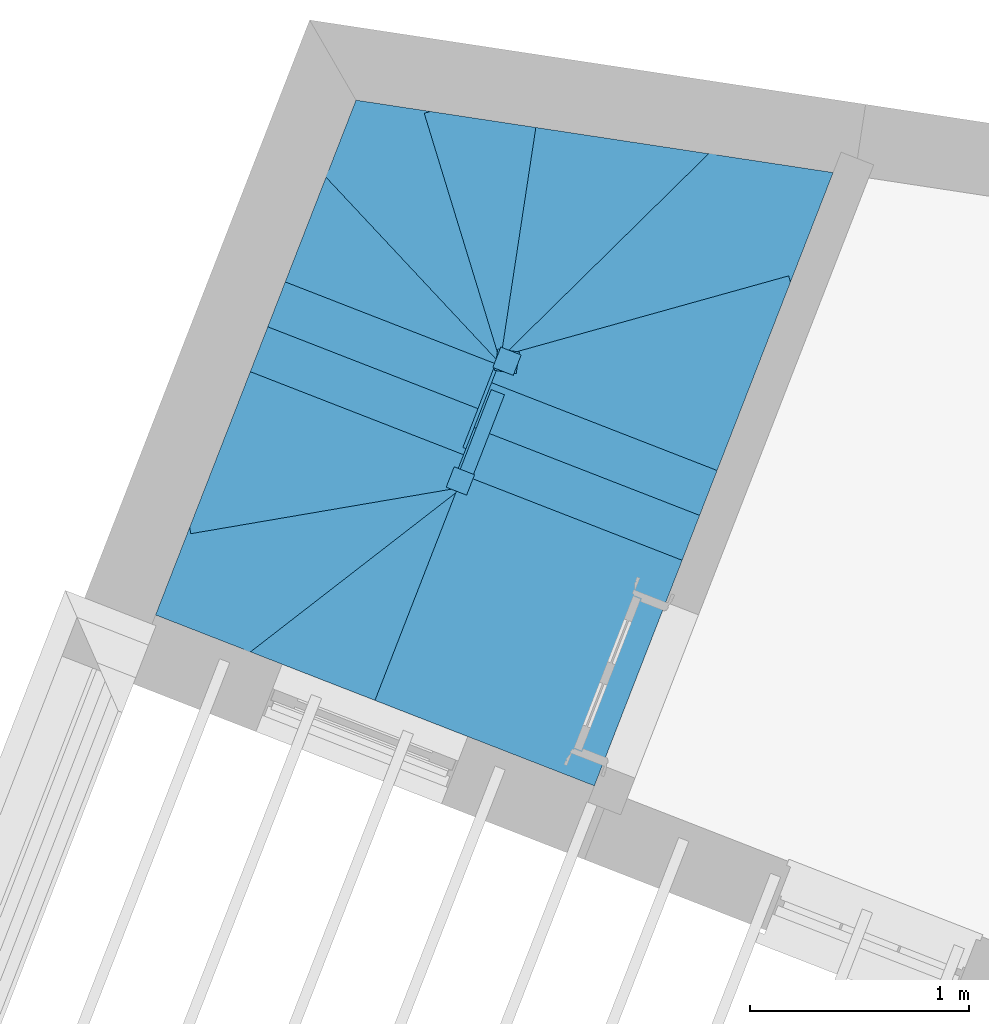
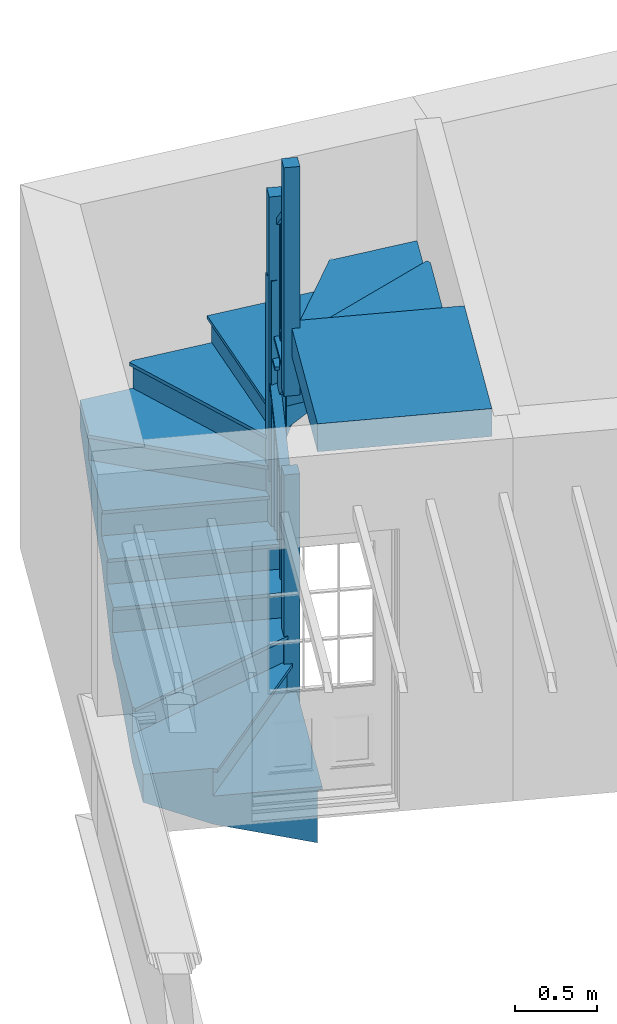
# One storey, part 5 of 5: 1 stair.
"""IFC4 building model written with IfcOpenShell, lengths in metres."""

from ifc_helpers import new_model, si_unit, frame, origin, origin_with_axes, place, context, subcontext, project, spatial, faceted_brep, element, save


model = new_model("IFC4")

# Units and contexts
model_context = context("Model", 3, world=origin_with_axes())
body_context = subcontext(model_context, "Body", "Model", "MODEL_VIEW")
ifc_project = project(units=[si_unit("PLANEANGLEUNIT", "RADIAN"), si_unit("MASSUNIT", "GRAM", prefix="KILO"), si_unit("FORCEUNIT", "NEWTON", prefix="KILO"), si_unit("LENGTHUNIT", "METRE"), si_unit("AREAUNIT", "SQUARE_METRE"), si_unit("VOLUMEUNIT", "CUBIC_METRE")], contexts=[model_context, model_context])

# Sites, building, storey
site_1_placement = place(None, origin_with_axes())
site_1 = spatial("IfcSite", under=ifc_project, at=site_1_placement, Name="Tamar")
site_2_placement = place(site_1_placement, origin_with_axes())
site_2 = spatial("IfcSite", under=site_1, at=site_2_placement, Name="Site plot-10", CompositionType="ELEMENT")
building_placement = place(None, origin_with_axes())
building = spatial("IfcBuilding", under=site_2, at=building_placement, Name="Building plot-10", CompositionType="ELEMENT")
storey_placement = place(None, frame((0.0, 0.0, 30.1), z_axis=(0.0, 0.0, 1.0), x_axis=(1.0, 0.0, 0.0)))
storey = spatial("IfcBuildingStorey", under=building, at=storey_placement, Name="plot-10 1", CompositionType="ELEMENT", Elevation=30.1)

# Stair
stair_placement = place(None, origin())
element("IfcStair", 1, at=stair_placement, inside=storey, Name="Stair", PredefinedType="NOTDEFINED", context=body_context, shape_type="Brep", body=[
    faceted_brep([(232.962063, 320.817461, 32.592308), (233.964143, 320.427315, 32.592308), (234.043961, 320.632325, 32.592308), (233.041881, 321.022471, 32.592308), (233.041881, 321.022471, 32.176923), (234.043961, 320.632325, 32.176923), (233.964143, 320.427315, 32.384615), (232.962063, 320.817461, 32.384615)], [[[0, 1, 2, 3]], [[4, 5, 6, 7]], [[7, 6, 1, 0]], [[1, 6, 5, 2]], [[5, 4, 3, 2]], [[3, 4, 7, 0]]]),
    faceted_brep([(234.054845, 320.660281, 32.567308), (234.054845, 320.660281, 32.592308), (234.043961, 320.632325, 32.567308), (233.953259, 320.399359, 32.592308), (233.953259, 320.399359, 32.567308), (233.964143, 320.427315, 32.567308), (234.043961, 320.632325, 32.592308), (233.964143, 320.427315, 32.592308), (233.024809, 321.061311, 32.592308), (233.041881, 321.022471, 32.592308), (233.041881, 321.022471, 32.567308), (233.024809, 321.061311, 32.567308), (232.923223, 320.800389, 32.592308), (232.962063, 320.817461, 32.592308), (232.962063, 320.817461, 32.567308), (232.923223, 320.800389, 32.567308)], [[[0, 1, 2]], [[3, 4, 5]], [[2, 1, 6]], [[3, 5, 7]], [[6, 1, 8, 9]], [[2, 6, 9, 10]], [[0, 2, 10, 11]], [[1, 0, 11, 8]], [[9, 8, 12, 13]], [[10, 9, 13, 14]], [[11, 10, 14, 15]], [[8, 11, 15, 12]], [[13, 12, 3, 7]], [[14, 13, 7, 5]], [[15, 14, 5, 4]], [[12, 15, 4, 3]]]),
    faceted_brep([(233.041881, 321.022471, 33.492308), (233.032811, 320.999174, 33.492308), (233.056107, 320.990104, 33.492308), (233.065177, 321.013401, 33.492308), (233.065177, 321.013401, 32.592308), (233.056107, 320.990104, 32.592308), (233.032811, 320.999174, 32.592308), (233.041881, 321.022471, 32.592308)], [[[0, 1, 2, 3]], [[4, 5, 6, 7]], [[7, 6, 1, 0]], [[6, 5, 2, 1]], [[5, 4, 3, 2]], [[4, 7, 0, 3]]]),
    faceted_brep([(233.001972, 320.919966, 33.596154), (232.992902, 320.896669, 33.596154), (233.016198, 320.887599, 33.596154), (233.025269, 320.910896, 33.596154), (233.025269, 320.910896, 32.592308), (233.016198, 320.887599, 32.592308), (232.992902, 320.896669, 32.592308), (233.001972, 320.919966, 32.592308)], [[[0, 1, 2, 3]], [[4, 5, 6, 7]], [[7, 6, 1, 0]], [[6, 5, 2, 1]], [[5, 4, 3, 2]], [[4, 7, 0, 3]]]),
    faceted_brep([(233.083815, 321.006145, 33.442308), (233.023244, 321.029727, 33.442308), (233.023244, 321.029727, 33.492308), (233.083815, 321.006145, 33.492308), (232.943426, 320.824717, 33.65), (233.003997, 320.801135, 33.65), (233.003997, 320.801135, 33.7), (232.943426, 320.824717, 33.7)], [[[0, 1, 2, 3]], [[4, 5, 6, 7]], [[0, 5, 4, 1]], [[3, 2, 7, 6]], [[0, 3, 6, 5]], [[2, 1, 4, 7]]]),
    faceted_brep([(233.041881, 321.022471, 32.384615), (234.043961, 320.632325, 32.384615), (234.123779, 320.837335, 32.384615), (233.121699, 321.227481, 32.384615), (233.121699, 321.227481, 31.969231), (234.123779, 320.837335, 31.969231), (234.043961, 320.632325, 32.176923), (233.041881, 321.022471, 32.176923)], [[[0, 1, 2, 3]], [[4, 5, 6, 7]], [[7, 6, 1, 0]], [[1, 6, 5, 2]], [[5, 4, 3, 2]], [[3, 4, 7, 0]]]),
    faceted_brep([(234.123779, 320.837335, 32.359615), (234.134663, 320.865291, 32.359615), (234.123779, 320.837335, 32.384615), (234.033077, 320.604369, 32.359615), (234.043961, 320.632325, 32.359615), (234.043961, 320.632325, 32.384615), (234.134663, 320.865291, 32.384615), (234.033077, 320.604369, 32.384615), (233.104627, 321.266321, 32.384615), (233.121699, 321.227481, 32.384615), (233.121699, 321.227481, 32.359615), (233.104627, 321.266321, 32.359615), (233.003041, 321.005399, 32.384615), (233.041881, 321.022471, 32.384615), (233.041881, 321.022471, 32.359615), (233.003041, 321.005399, 32.359615)], [[[0, 1, 2]], [[3, 4, 5]], [[1, 6, 2]], [[7, 3, 5]], [[2, 6, 8, 9]], [[0, 2, 9, 10]], [[1, 0, 10, 11]], [[6, 1, 11, 8]], [[9, 8, 12, 13]], [[10, 9, 13, 14]], [[11, 10, 14, 15]], [[8, 11, 15, 12]], [[13, 12, 7, 5]], [[14, 13, 5, 4]], [[15, 14, 4, 3]], [[12, 15, 3, 7]]]),
    faceted_brep([(233.121699, 321.227481, 33.284615), (233.112628, 321.204184, 33.284615), (233.135925, 321.195114, 33.284615), (233.144995, 321.218411, 33.284615), (233.144995, 321.218411, 32.384615), (233.135925, 321.195114, 32.384615), (233.112628, 321.204184, 32.384615), (233.121699, 321.227481, 32.384615)], [[[0, 1, 2, 3]], [[4, 5, 6, 7]], [[7, 6, 1, 0]], [[6, 5, 2, 1]], [[5, 4, 3, 2]], [[4, 7, 0, 3]]]),
    faceted_brep([(233.08179, 321.124976, 33.388462), (233.07272, 321.101679, 33.388462), (233.096016, 321.092609, 33.388462), (233.105086, 321.115906, 33.388462), (233.105086, 321.115906, 32.384615), (233.096016, 321.092609, 32.384615), (233.07272, 321.101679, 32.384615), (233.08179, 321.124976, 32.384615)], [[[0, 1, 2, 3]], [[4, 5, 6, 7]], [[7, 6, 1, 0]], [[6, 5, 2, 1]], [[5, 4, 3, 2]], [[4, 7, 0, 3]]]),
    faceted_brep([(233.163632, 321.211155, 33.234615), (233.103061, 321.234737, 33.234615), (233.103061, 321.234737, 33.284615), (233.163632, 321.211155, 33.284615), (233.023244, 321.029727, 33.442308), (233.083815, 321.006145, 33.442308), (233.083815, 321.006145, 33.492308), (233.023244, 321.029727, 33.492308)], [[[0, 1, 2, 3]], [[4, 5, 6, 7]], [[0, 5, 4, 1]], [[3, 2, 7, 6]], [[0, 3, 6, 5]], [[2, 1, 4, 7]]]),
    faceted_brep([(233.121699, 321.227481, 32.176923), (234.123779, 320.837335, 32.176923), (234.177096, 320.97428, 32.176923), (233.175016, 321.364426, 32.176923), (233.175016, 321.364426, 31.969231), (234.177096, 320.97428, 31.969231), (234.123779, 320.837335, 31.969231), (233.121699, 321.227481, 31.969231)], [[[0, 1, 2, 3]], [[4, 5, 6, 7]], [[7, 6, 1, 0]], [[6, 5, 2, 1]], [[5, 4, 3, 2]], [[4, 7, 0, 3]]]),
    faceted_brep([(233.14706, 321.37531, 32.151923), (233.14706, 321.37531, 32.176923), (233.175016, 321.364426, 32.151923), (233.093743, 321.238365, 32.176923), (233.093743, 321.238365, 32.151923), (233.121699, 321.227481, 32.151923), (233.175016, 321.364426, 32.176923), (233.121699, 321.227481, 32.176923)], [[[0, 1, 2]], [[3, 4, 5]], [[2, 1, 6]], [[3, 5, 7]], [[6, 1, 3, 7]], [[2, 6, 7, 5]], [[0, 2, 5, 4]], [[1, 0, 4, 3]]]),
    faceted_brep([(233.146563, 321.42916, 33.376923), (233.110283, 321.335973, 33.376923), (233.203469, 321.299692, 33.376923), (233.23975, 321.392879, 33.376923), (233.23975, 321.392879, 32.176923), (233.203469, 321.299692, 32.176923), (233.110283, 321.335973, 32.176923), (233.146563, 321.42916, 32.176923)], [[[0, 1, 2, 3]], [[4, 5, 6, 7]], [[7, 6, 1, 0]], [[6, 5, 2, 1]], [[5, 4, 3, 2]], [[4, 7, 0, 3]]]),
    faceted_brep([(234.177096, 320.97428, 32.176923), (234.469505, 321.725324, 32.176923), (233.175016, 321.364426, 32.176923), (233.175016, 321.364426, 31.761538), (234.469505, 321.725324, 31.761538), (234.177096, 320.97428, 31.969231)], [[[0, 1, 2]], [[3, 4, 5]], [[0, 5, 4, 1]], [[4, 3, 2, 1]], [[2, 3, 5, 0]]]),
    faceted_brep([(234.469505, 321.725324, 32.151923), (234.461448, 321.754222, 32.151923), (234.469505, 321.725324, 32.176923), (233.16696, 321.393324, 32.151923), (233.175016, 321.364426, 32.151923), (233.175016, 321.364426, 32.176923), (234.461448, 321.754222, 32.176923), (233.16696, 321.393324, 32.176923)], [[[0, 1, 2]], [[3, 4, 5]], [[1, 6, 2]], [[7, 3, 5]], [[2, 6, 7, 5]], [[0, 2, 5, 4]], [[1, 0, 4, 3]], [[6, 1, 3, 7]]]),
    faceted_brep([(234.469505, 321.725324, 31.969231), (234.664444, 322.226019, 31.969231), (234.133223, 322.306651, 31.969231), (233.175016, 321.364426, 31.969231), (233.175016, 321.364426, 31.553846), (234.133223, 322.306651, 31.553846), (234.664444, 322.226019, 31.761538), (234.469505, 321.725324, 31.761538)], [[[0, 1, 2, 3]], [[4, 5, 6, 7]], [[7, 6, 1, 0]], [[1, 6, 5, 2]], [[5, 4, 3, 2]], [[3, 4, 7, 0]]]),
    faceted_brep([(234.112188, 322.328042, 31.944231), (234.112188, 322.328042, 31.969231), (234.133223, 322.306651, 31.944231), (233.153982, 321.385817, 31.969231), (233.153982, 321.385817, 31.944231), (233.175016, 321.364426, 31.944231), (234.133223, 322.306651, 31.969231), (233.175016, 321.364426, 31.969231)], [[[0, 1, 2]], [[3, 4, 5]], [[2, 1, 6]], [[3, 5, 7]], [[6, 1, 3, 7]], [[2, 6, 7, 5]], [[0, 2, 5, 4]], [[1, 0, 4, 3]]]),
    faceted_brep([(234.133223, 322.306651, 31.761538), (233.336391, 322.427599, 31.761538), (233.175016, 321.364426, 31.761538), (233.175016, 321.364426, 31.346154), (233.336391, 322.427599, 31.346154), (234.133223, 322.306651, 31.553846)], [[[0, 1, 2]], [[3, 4, 5]], [[0, 5, 4, 1]], [[4, 3, 2, 1]], [[2, 3, 5, 0]]]),
    faceted_brep([(233.336391, 322.427599, 31.736538), (233.306731, 322.432101, 31.736538), (233.336391, 322.427599, 31.761538), (233.145356, 321.368928, 31.736538), (233.175016, 321.364426, 31.736538), (233.175016, 321.364426, 31.761538), (233.306731, 322.432101, 31.761538), (233.145356, 321.368928, 31.761538)], [[[0, 1, 2]], [[3, 4, 5]], [[1, 6, 2]], [[7, 3, 5]], [[2, 6, 7, 5]], [[0, 2, 5, 4]], [[1, 0, 4, 3]], [[6, 1, 3, 7]]]),
    faceted_brep([(233.146563, 321.42916, 32.176923), (233.110283, 321.335973, 32.176923), (233.203469, 321.299692, 32.176923), (233.23975, 321.392879, 32.176923), (233.23975, 321.392879, 31.261538), (233.203469, 321.299692, 31.261538), (233.110283, 321.335973, 31.261538), (233.146563, 321.42916, 31.261538)], [[[0, 1, 2, 3]], [[4, 5, 6, 7]], [[7, 6, 1, 0]], [[6, 5, 2, 1]], [[5, 4, 3, 2]], [[4, 7, 0, 3]]]),
    faceted_brep([(233.175016, 321.364426, 31.346154), (233.336391, 322.427599, 31.346154), (233.336391, 322.427599, 31.553846), (233.175016, 321.364426, 31.553846)], [[[0, 1, 2, 3]], [[1, 0, 3, 2]]]),
    faceted_brep([(233.175016, 321.364426, 31.528846), (233.162832, 321.39184, 31.528846), (233.175016, 321.364426, 31.553846), (233.162832, 321.39184, 31.553846)], [[[0, 1, 2]], [[1, 0, 2]], [[1, 3, 2]], [[3, 1, 2]]]),
    faceted_brep([(233.118079, 321.322496, 32.753846), (233.216947, 321.307489, 32.753846), (233.231953, 321.406356, 32.753846), (233.133086, 321.421363, 32.753846), (233.133086, 321.421363, 31.553846), (233.231953, 321.406356, 31.553846), (233.216947, 321.307489, 31.553846), (233.118079, 321.322496, 31.553846)], [[[0, 1, 2, 3]], [[4, 5, 6, 7]], [[7, 6, 1, 0]], [[6, 5, 2, 1]], [[5, 4, 3, 2]], [[4, 7, 0, 3]]]),
    faceted_brep([(233.336391, 322.427599, 31.553846), (232.825717, 322.505112, 31.553846), (233.175016, 321.364426, 31.553846), (233.175016, 321.364426, 31.138462), (232.825717, 322.505112, 31.138462), (233.336391, 322.427599, 31.346154)], [[[0, 1, 2]], [[3, 4, 5]], [[0, 5, 4, 1]], [[4, 3, 2, 1]], [[2, 3, 5, 0]]]),
    faceted_brep([(232.797032, 322.496328, 31.528846), (232.797032, 322.496328, 31.553846), (232.825717, 322.505112, 31.528846), (233.146331, 321.355642, 31.553846), (233.146331, 321.355642, 31.528846), (233.175016, 321.364426, 31.528846), (232.825717, 322.505112, 31.553846), (233.175016, 321.364426, 31.553846)], [[[0, 1, 2]], [[3, 4, 5]], [[2, 1, 6]], [[3, 5, 7]], [[6, 1, 3, 7]], [[2, 6, 7, 5]], [[0, 2, 5, 4]], [[1, 0, 4, 3]]]),
    faceted_brep([(232.825717, 322.505112, 31.346154), (232.485267, 322.556788, 31.346154), (232.360335, 322.235901, 31.346154), (233.175016, 321.364426, 31.346154), (233.175016, 321.364426, 30.930769), (232.360335, 322.235901, 30.930769), (232.485267, 322.556788, 31.138462), (232.825717, 322.505112, 31.138462)], [[[0, 1, 2, 3]], [[4, 5, 6, 7]], [[7, 6, 1, 0]], [[1, 6, 5, 2]], [[5, 4, 3, 2]], [[3, 4, 7, 0]]]),
    faceted_brep([(232.33842, 322.215414, 31.321154), (232.33842, 322.215414, 31.346154), (232.360335, 322.235901, 31.321154), (233.153101, 321.343939, 31.346154), (233.153101, 321.343939, 31.321154), (233.175016, 321.364426, 31.321154), (232.360335, 322.235901, 31.346154), (233.175016, 321.364426, 31.346154)], [[[0, 1, 2]], [[3, 4, 5]], [[2, 1, 6]], [[3, 5, 7]], [[6, 1, 3, 7]], [[2, 6, 7, 5]], [[0, 2, 5, 4]], [[1, 0, 4, 3]]]),
    faceted_brep([(232.360335, 322.235901, 31.138462), (232.172936, 321.754572, 31.138462), (233.175016, 321.364426, 31.138462), (233.175016, 321.364426, 30.723077), (232.172936, 321.754572, 30.723077), (232.360335, 322.235901, 30.930769)], [[[0, 1, 2]], [[3, 4, 5]], [[0, 5, 4, 1]], [[4, 3, 2, 1]], [[2, 3, 5, 0]]]),
    faceted_brep([(232.162052, 321.726616, 31.113462), (232.162052, 321.726616, 31.138462), (232.172936, 321.754572, 31.113462), (233.164132, 321.33647, 31.138462), (233.164132, 321.33647, 31.113462), (233.175016, 321.364426, 31.113462), (232.172936, 321.754572, 31.138462), (233.175016, 321.364426, 31.138462)], [[[0, 1, 2]], [[3, 4, 5]], [[2, 1, 6]], [[3, 5, 7]], [[6, 1, 3, 7]], [[2, 6, 7, 5]], [[0, 2, 5, 4]], [[1, 0, 4, 3]]]),
    faceted_brep([(233.118079, 321.322496, 31.553846), (233.216947, 321.307489, 31.553846), (233.231953, 321.406356, 31.553846), (233.133086, 321.421363, 31.553846), (233.133086, 321.421363, 30.638462), (233.231953, 321.406356, 30.638462), (233.216947, 321.307489, 30.638462), (233.118079, 321.322496, 30.638462)], [[[0, 1, 2, 3]], [[4, 5, 6, 7]], [[7, 6, 1, 0]], [[6, 5, 2, 1]], [[5, 4, 3, 2]], [[4, 7, 0, 3]]]),
    faceted_brep([(233.175016, 321.364426, 30.930769), (232.172936, 321.754572, 30.930769), (232.093118, 321.549562, 30.930769), (233.095198, 321.159416, 30.930769), (233.095198, 321.159416, 30.515385), (232.093118, 321.549562, 30.515385), (232.172936, 321.754572, 30.723077), (233.175016, 321.364426, 30.723077)], [[[0, 1, 2, 3]], [[4, 5, 6, 7]], [[7, 6, 1, 0]], [[1, 6, 5, 2]], [[5, 4, 3, 2]], [[3, 4, 7, 0]]]),
    faceted_brep([(232.082234, 321.521606, 30.905769), (232.082234, 321.521606, 30.930769), (232.093118, 321.549562, 30.905769), (232.18382, 321.782528, 30.930769), (232.18382, 321.782528, 30.905769), (232.172936, 321.754572, 30.905769), (232.093118, 321.549562, 30.930769), (232.172936, 321.754572, 30.930769), (233.11227, 321.120576, 30.930769), (233.095198, 321.159416, 30.930769), (233.095198, 321.159416, 30.905769), (233.11227, 321.120576, 30.905769), (233.213856, 321.381498, 30.930769), (233.175016, 321.364426, 30.930769), (233.175016, 321.364426, 30.905769), (233.213856, 321.381498, 30.905769)], [[[0, 1, 2]], [[3, 4, 5]], [[2, 1, 6]], [[3, 5, 7]], [[6, 1, 8, 9]], [[2, 6, 9, 10]], [[0, 2, 10, 11]], [[1, 0, 11, 8]], [[9, 8, 12, 13]], [[10, 9, 13, 14]], [[11, 10, 14, 15]], [[8, 11, 15, 12]], [[13, 12, 3, 7]], [[14, 13, 7, 5]], [[15, 14, 5, 4]], [[12, 15, 4, 3]]]),
    faceted_brep([(233.095198, 321.159416, 31.830769), (233.104269, 321.182713, 31.830769), (233.080972, 321.191783, 31.830769), (233.071902, 321.168486, 31.830769), (233.071902, 321.168486, 30.930769), (233.080972, 321.191783, 30.930769), (233.104269, 321.182713, 30.930769), (233.095198, 321.159416, 30.930769)], [[[0, 1, 2, 3]], [[4, 5, 6, 7]], [[7, 6, 1, 0]], [[6, 5, 2, 1]], [[5, 4, 3, 2]], [[4, 7, 0, 3]]]),
    faceted_brep([(233.135107, 321.261921, 31.934615), (233.144178, 321.285218, 31.934615), (233.120881, 321.294288, 31.934615), (233.111811, 321.270991, 31.934615), (233.111811, 321.270991, 30.930769), (233.120881, 321.294288, 30.930769), (233.144178, 321.285218, 30.930769), (233.135107, 321.261921, 30.930769)], [[[0, 1, 2, 3]], [[4, 5, 6, 7]], [[7, 6, 1, 0]], [[6, 5, 2, 1]], [[5, 4, 3, 2]], [[4, 7, 0, 3]]]),
    faceted_brep([(233.053265, 321.175742, 31.780769), (233.113836, 321.15216, 31.780769), (233.113836, 321.15216, 31.830769), (233.053265, 321.175742, 31.830769), (233.193654, 321.35717, 31.988462), (233.133082, 321.380752, 31.988462), (233.133082, 321.380752, 32.038462), (233.193654, 321.35717, 32.038462)], [[[0, 1, 2, 3]], [[4, 5, 6, 7]], [[0, 5, 4, 1]], [[3, 2, 7, 6]], [[0, 3, 6, 5]], [[2, 1, 4, 7]]]),
    faceted_brep([(233.095198, 321.159416, 30.723077), (232.093118, 321.549562, 30.723077), (232.0133, 321.344552, 30.723077), (233.015381, 320.954406, 30.723077), (233.015381, 320.954406, 30.307692), (232.0133, 321.344552, 30.307692), (232.093118, 321.549562, 30.515385), (233.095198, 321.159416, 30.515385)], [[[0, 1, 2, 3]], [[4, 5, 6, 7]], [[7, 6, 1, 0]], [[1, 6, 5, 2]], [[5, 4, 3, 2]], [[3, 4, 7, 0]]]),
    faceted_brep([(232.0133, 321.344552, 30.698077), (232.002416, 321.316596, 30.698077), (232.0133, 321.344552, 30.723077), (232.104002, 321.577518, 30.698077), (232.093118, 321.549562, 30.698077), (232.093118, 321.549562, 30.723077), (232.002416, 321.316596, 30.723077), (232.104002, 321.577518, 30.723077), (233.032452, 320.915566, 30.723077), (233.015381, 320.954406, 30.723077), (233.015381, 320.954406, 30.698077), (233.032452, 320.915566, 30.698077), (233.134039, 321.176488, 30.723077), (233.095198, 321.159416, 30.723077), (233.095198, 321.159416, 30.698077), (233.134039, 321.176488, 30.698077)], [[[0, 1, 2]], [[3, 4, 5]], [[1, 6, 2]], [[7, 3, 5]], [[2, 6, 8, 9]], [[0, 2, 9, 10]], [[1, 0, 10, 11]], [[6, 1, 11, 8]], [[9, 8, 12, 13]], [[10, 9, 13, 14]], [[11, 10, 14, 15]], [[8, 11, 15, 12]], [[13, 12, 7, 5]], [[14, 13, 5, 4]], [[15, 14, 4, 3]], [[12, 15, 3, 7]]]),
    faceted_brep([(233.015381, 320.954406, 31.623077), (233.024451, 320.977703, 31.623077), (233.001154, 320.986773, 31.623077), (232.992084, 320.963476, 31.623077), (232.992084, 320.963476, 30.723077), (233.001154, 320.986773, 30.723077), (233.024451, 320.977703, 30.723077), (233.015381, 320.954406, 30.723077)], [[[0, 1, 2, 3]], [[4, 5, 6, 7]], [[7, 6, 1, 0]], [[6, 5, 2, 1]], [[5, 4, 3, 2]], [[4, 7, 0, 3]]]),
    faceted_brep([(233.05529, 321.056911, 31.726923), (233.06436, 321.080208, 31.726923), (233.041063, 321.089278, 31.726923), (233.031993, 321.065981, 31.726923), (233.031993, 321.065981, 30.723077), (233.041063, 321.089278, 30.723077), (233.06436, 321.080208, 30.723077), (233.05529, 321.056911, 30.723077)], [[[0, 1, 2, 3]], [[4, 5, 6, 7]], [[7, 6, 1, 0]], [[6, 5, 2, 1]], [[5, 4, 3, 2]], [[4, 7, 0, 3]]]),
    faceted_brep([(232.973447, 320.970732, 31.573077), (233.034018, 320.94715, 31.573077), (233.034018, 320.94715, 31.623077), (232.973447, 320.970732, 31.623077), (233.113836, 321.15216, 31.780769), (233.053265, 321.175742, 31.780769), (233.053265, 321.175742, 31.830769), (233.113836, 321.15216, 31.830769)], [[[0, 1, 2, 3]], [[4, 5, 6, 7]], [[0, 5, 4, 1]], [[3, 2, 7, 6]], [[0, 3, 6, 5]], [[2, 1, 4, 7]]]),
    faceted_brep([(233.015381, 320.954406, 30.515385), (232.0133, 321.344552, 30.515385), (231.959983, 321.207607, 30.515385), (232.962063, 320.817461, 30.515385), (232.962063, 320.817461, 30.307692), (231.959983, 321.207607, 30.307692), (232.0133, 321.344552, 30.307692), (233.015381, 320.954406, 30.307692)], [[[0, 1, 2, 3]], [[4, 5, 6, 7]], [[7, 6, 1, 0]], [[6, 5, 2, 1]], [[5, 4, 3, 2]], [[4, 7, 0, 3]]]),
    faceted_brep([(232.990019, 320.806577, 30.490385), (232.990019, 320.806577, 30.515385), (232.962063, 320.817461, 30.490385), (233.043337, 320.943522, 30.515385), (233.043337, 320.943522, 30.490385), (233.015381, 320.954406, 30.490385), (232.962063, 320.817461, 30.515385), (233.015381, 320.954406, 30.515385)], [[[0, 1, 2]], [[3, 4, 5]], [[2, 1, 6]], [[3, 5, 7]], [[6, 1, 3, 7]], [[2, 6, 7, 5]], [[0, 2, 5, 4]], [[1, 0, 4, 3]]]),
    faceted_brep([(232.990516, 320.752727, 31.715385), (233.026797, 320.845914, 31.715385), (232.93361, 320.882195, 31.715385), (232.897329, 320.789008, 31.715385), (232.897329, 320.789008, 30.515385), (232.93361, 320.882195, 30.515385), (233.026797, 320.845914, 30.515385), (232.990516, 320.752727, 30.515385)], [[[0, 1, 2, 3]], [[4, 5, 6, 7]], [[7, 6, 1, 0]], [[6, 5, 2, 1]], [[5, 4, 3, 2]], [[4, 7, 0, 3]]]),
    faceted_brep([(231.959983, 321.207607, 30.515385), (231.725895, 320.606359, 30.515385), (232.962063, 320.817461, 30.515385), (232.962063, 320.817461, 30.1), (231.725895, 320.606359, 30.1), (231.959983, 321.207607, 30.307692)], [[[0, 1, 2]], [[3, 4, 5]], [[0, 5, 4, 1]], [[4, 3, 2, 1]], [[2, 3, 5, 0]]]),
    faceted_brep([(231.725895, 320.606359, 30.490385), (231.730945, 320.576787, 30.490385), (231.725895, 320.606359, 30.515385), (232.967113, 320.787889, 30.490385), (232.962063, 320.817461, 30.490385), (232.962063, 320.817461, 30.515385), (231.730945, 320.576787, 30.515385), (232.967113, 320.787889, 30.515385)], [[[0, 1, 2]], [[3, 4, 5]], [[1, 6, 2]], [[7, 3, 5]], [[2, 6, 7, 5]], [[0, 2, 5, 4]], [[1, 0, 4, 3]], [[6, 1, 3, 7]]]),
    faceted_brep([(231.725895, 320.606359, 30.307692), (231.569837, 320.205527, 30.307692), (231.970669, 320.049468, 30.307692), (232.962063, 320.817461, 30.307692), (232.962063, 320.817461, 29.892308), (231.970669, 320.049468, 29.892308), (231.569837, 320.205527, 30.1), (231.725895, 320.606359, 30.1)], [[[0, 1, 2, 3]], [[4, 5, 6, 7]], [[7, 6, 1, 0]], [[1, 6, 5, 2]], [[5, 4, 3, 2]], [[3, 4, 7, 0]]]),
    faceted_brep([(231.970669, 320.049468, 30.282692), (231.989041, 320.025752, 30.282692), (231.970669, 320.049468, 30.307692), (232.980435, 320.793745, 30.282692), (232.962063, 320.817461, 30.282692), (232.962063, 320.817461, 30.307692), (231.989041, 320.025752, 30.307692), (232.980435, 320.793745, 30.307692)], [[[0, 1, 2]], [[3, 4, 5]], [[1, 6, 2]], [[7, 3, 5]], [[2, 6, 7, 5]], [[0, 2, 5, 4]], [[1, 0, 4, 3]], [[6, 1, 3, 7]]]),
    faceted_brep([(231.970669, 320.049468, 30.1), (232.571917, 319.815381, 30.1), (232.962063, 320.817461, 30.1), (232.962063, 320.817461, 29.684615), (232.571917, 319.815381, 29.684615), (231.970669, 320.049468, 29.892308)], [[[0, 1, 2]], [[3, 4, 5]], [[0, 5, 4, 1]], [[4, 3, 2, 1]], [[2, 3, 5, 0]]]),
    faceted_brep([(232.571917, 319.815381, 30.075), (232.599873, 319.804496, 30.075), (232.571917, 319.815381, 30.1), (232.990019, 320.806577, 30.075), (232.962063, 320.817461, 30.075), (232.962063, 320.817461, 30.1), (232.599873, 319.804496, 30.1), (232.990019, 320.806577, 30.1)], [[[0, 1, 2]], [[3, 4, 5]], [[1, 6, 2]], [[7, 3, 5]], [[2, 6, 7, 5]], [[0, 2, 5, 4]], [[1, 0, 4, 3]], [[6, 1, 3, 7]]]),
    faceted_brep([(232.990516, 320.752727, 30.515385), (233.026797, 320.845914, 30.515385), (232.93361, 320.882195, 30.515385), (232.897329, 320.789008, 30.515385), (232.897329, 320.789008, 29.6), (232.93361, 320.882195, 29.6), (233.026797, 320.845914, 29.6), (232.990516, 320.752727, 29.6)], [[[0, 1, 2, 3]], [[4, 5, 6, 7]], [[7, 6, 1, 0]], [[6, 5, 2, 1]], [[5, 4, 3, 2]], [[4, 7, 0, 3]]]),
    faceted_brep([(232.962063, 320.817461, 29.892308), (232.571917, 319.815381, 29.892308), (232.571917, 319.815381, 30.1), (232.962063, 320.817461, 30.1)], [[[0, 1, 2, 3]], [[1, 0, 3, 2]]]),
    faceted_brep([(232.946628, 320.791736, 30.075), (232.946628, 320.791736, 30.1), (232.962063, 320.817461, 30.075), (232.962063, 320.817461, 30.1)], [[[0, 1, 2]], [[1, 0, 2]], [[2, 1, 3]], [[1, 2, 3]]]),
    faceted_brep([(233.026797, 320.845914, 34.0), (232.93361, 320.882195, 34.0), (232.897329, 320.789008, 34.0), (232.990516, 320.752727, 34.0), (232.990516, 320.752727, 32.8), (232.897329, 320.789008, 32.8), (232.93361, 320.882195, 32.8), (233.026797, 320.845914, 32.8)], [[[0, 1, 2, 3]], [[4, 5, 6, 7]], [[7, 6, 1, 0]], [[6, 5, 2, 1]], [[5, 4, 3, 2]], [[4, 7, 0, 3]]]),
    faceted_brep([(232.962063, 320.817461, 32.8), (232.571917, 319.815381, 32.8), (233.573997, 319.425235, 32.8), (233.964143, 320.427315, 32.8), (233.964143, 320.427315, 32.592308), (233.573997, 319.425235, 32.592308), (232.571917, 319.815381, 32.592308), (232.962063, 320.817461, 32.592308)], [[[0, 1, 2, 3]], [[4, 5, 6, 7]], [[7, 6, 1, 0]], [[6, 5, 2, 1]], [[5, 4, 3, 2]], [[4, 7, 0, 3]]]),
    faceted_brep([(233.964143, 320.427315, 32.775), (233.975028, 320.455271, 32.775), (233.964143, 320.427315, 32.8), (232.972947, 320.845417, 32.775), (232.962063, 320.817461, 32.775), (232.962063, 320.817461, 32.8), (233.975028, 320.455271, 32.8), (232.972947, 320.845417, 32.8)], [[[0, 1, 2]], [[3, 4, 5]], [[1, 6, 2]], [[7, 3, 5]], [[2, 6, 7, 5]], [[0, 2, 5, 4]], [[1, 0, 4, 3]], [[6, 1, 3, 7]]]),
    faceted_brep([(233.026797, 320.845914, 32.8), (232.93361, 320.882195, 32.8), (232.897329, 320.789008, 32.8), (232.990516, 320.752727, 32.8), (232.990516, 320.752727, 32.3), (232.897329, 320.789008, 32.3), (232.93361, 320.882195, 32.3), (233.026797, 320.845914, 32.3)], [[[0, 1, 2, 3]], [[4, 5, 6, 7]], [[7, 6, 1, 0]], [[6, 5, 2, 1]], [[5, 4, 3, 2]], [[4, 7, 0, 3]]]),
])

save(model, "model.ifc")
